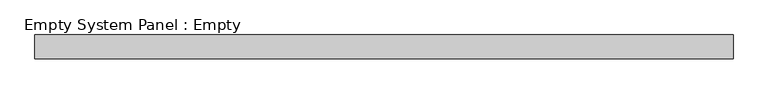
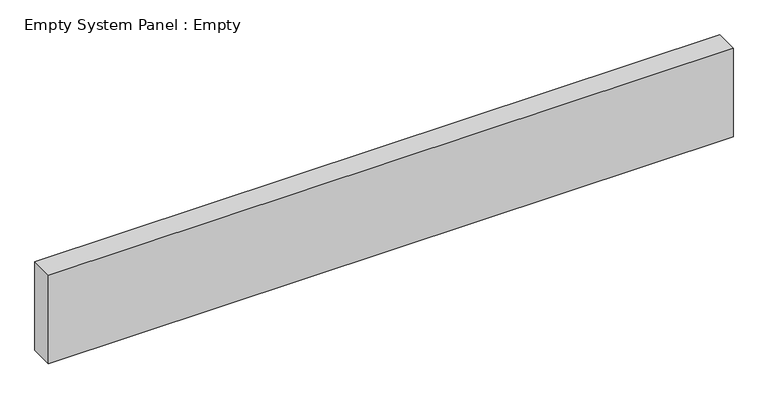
"""IFC4 building model written with IfcOpenShell, lengths in millimetres: plate geometry, Empty System Panel : Empty."""

from ifc_helpers import new_model, si_unit, origin, origin_with_axes, place, context, project, spatial, polyline, outline, extrude, source, transform, mapped, element, save


def empty_system_panel_empty_0ce9900c(model_context):
    return source(origin(), model_context, "Body", "SweptSolid", [
        extrude(outline(polyline([(1462.5, -50.0), (-1462.5, -50.0), (-1462.5, 50.0), (1462.5, 50.0), (1462.5, -50.0)])), origin_with_axes(), (0.0, 0.0, 1.0), 400.0),
    ])


if __name__ == "__main__":
    model = new_model("IFC4")
    model_context = context("Model", 3, world=origin())
    ifc_project = project(units=[si_unit("LENGTHUNIT", "METRE", prefix="MILLI")], contexts=[model_context])
    site = spatial("IfcSite", under=ifc_project)
    building = spatial("IfcBuilding", under=site)
    placement = place(None, origin())
    empty_system_panel_empty_shape = empty_system_panel_empty_0ce9900c(model_context)
    element("IfcPlate", 1, ObjectType="Empty System Panel : Empty", at=placement, inside=building, context=model_context, shape_type="MappedRepresentation", body=[
        mapped(empty_system_panel_empty_shape, transform((0.0, 0.0, 0.0), x_axis=(1.0, 0.0, 0.0), y_axis=(0.0, 1.0, 0.0), z_axis=(0.0, 0.0, 1.0))),
    ])
    save(model, "model.ifc")
